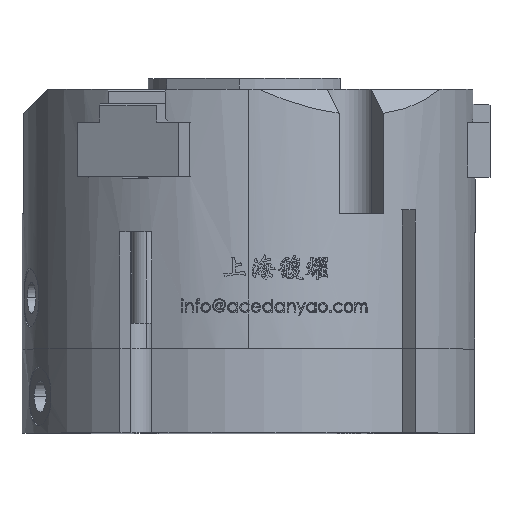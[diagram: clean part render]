
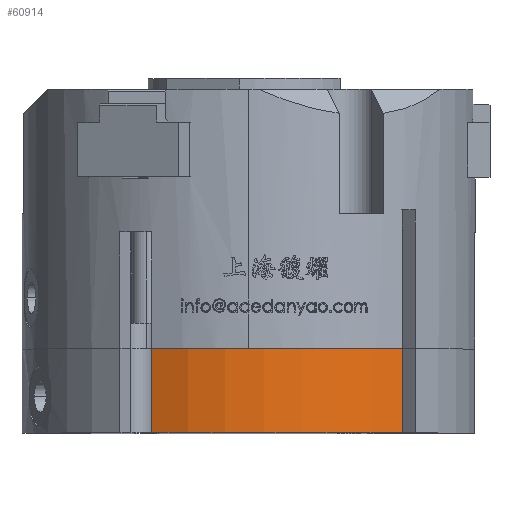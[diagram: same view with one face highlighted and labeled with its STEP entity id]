
A CAD part, top view. The second image highlights one B-rep face of the part: STEP entity #60914.
In plain terms, the highlighted cylindrical face has radius 62 mm (diameter 124 mm), a partial arc.
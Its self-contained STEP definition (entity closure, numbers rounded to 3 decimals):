
#896 = CARTESIAN_POINT ( 'NONE',  ( -26.569, 0., 56.019 ) ) ;
#960 = ORIENTED_EDGE ( 'NONE', *, *, #22531, .T. ) ;
#1073 = VERTEX_POINT ( 'NONE', #50515 ) ;
#1725 = DIRECTION ( 'NONE',  ( 0., -1., 0. ) ) ;
#2323 = LINE ( 'NONE', #55980, #35940 ) ;
#5104 = DIRECTION ( 'NONE',  ( -1., 0., 0. ) ) ;
#17821 = CARTESIAN_POINT ( 'NONE',  ( 0., -23., 0. ) ) ;
#18184 = EDGE_CURVE ( 'NONE', #46017, #37275, #2323, .T. ) ;
#18509 = CIRCLE ( 'NONE', #56334, 62. ) ;
#18854 = ORIENTED_EDGE ( 'NONE', *, *, #18184, .T. ) ;
#19558 = DIRECTION ( 'NONE',  ( 0., 1., 0. ) ) ;
#22187 = CARTESIAN_POINT ( 'NONE',  ( 42.037, -23., 45.573 ) ) ;
#22531 = EDGE_CURVE ( 'NONE', #1073, #73716, #92017, .T. ) ;
#23844 = CIRCLE ( 'NONE', #65023, 62. ) ;
#25023 = DIRECTION ( 'NONE',  ( -1., 0., 0. ) ) ;
#26392 = DIRECTION ( 'NONE',  ( 0., 1., 0. ) ) ;
#31303 = ORIENTED_EDGE ( 'NONE', *, *, #55451, .T. ) ;
#35439 = CARTESIAN_POINT ( 'NONE',  ( 42.037, 0., 45.573 ) ) ;
#35940 = VECTOR ( 'NONE', #19558, 1000. ) ;
#36877 = EDGE_LOOP ( 'NONE', ( #31303, #960, #85179, #18854 ) ) ;
#37275 = VERTEX_POINT ( 'NONE', #35439 ) ;
#40194 = EDGE_CURVE ( 'NONE', #73716, #46017, #18509, .T. ) ;
#43846 = FACE_OUTER_BOUND ( 'NONE', #36877, .T. ) ;
#44715 = CARTESIAN_POINT ( 'NONE',  ( 0., 0., 0. ) ) ;
#46017 = VERTEX_POINT ( 'NONE', #22187 ) ;
#46479 = CARTESIAN_POINT ( 'NONE',  ( -26.569, -23., 56.019 ) ) ;
#48090 = CARTESIAN_POINT ( 'NONE',  ( 0., 0., 0. ) ) ;
#50515 = CARTESIAN_POINT ( 'NONE',  ( -26.569, 0., 56.019 ) ) ;
#51939 = DIRECTION ( 'NONE',  ( -1., 0., 0. ) ) ;
#54308 = AXIS2_PLACEMENT_3D ( 'NONE', #48090, #26392, #5104 ) ;
#55451 = EDGE_CURVE ( 'NONE', #37275, #1073, #23844, .T. ) ;
#55980 = CARTESIAN_POINT ( 'NONE',  ( 42.037, 0., 45.573 ) ) ;
#56334 = AXIS2_PLACEMENT_3D ( 'NONE', #17821, #68093, #25023 ) ;
#60914 = ADVANCED_FACE ( 'NONE', ( #43846 ), #79814, .T. ) ;
#65023 = AXIS2_PLACEMENT_3D ( 'NONE', #44715, #1725, #51939 ) ;
#68093 = DIRECTION ( 'NONE',  ( 0., 1., 0. ) ) ;
#72799 = DIRECTION ( 'NONE',  ( 0., -1., 0. ) ) ;
#73716 = VERTEX_POINT ( 'NONE', #46479 ) ;
#79814 = CYLINDRICAL_SURFACE ( 'NONE', #54308, 62. ) ;
#85179 = ORIENTED_EDGE ( 'NONE', *, *, #40194, .T. ) ;
#88732 = VECTOR ( 'NONE', #72799, 1000. ) ;
#92017 = LINE ( 'NONE', #896, #88732 ) ;
